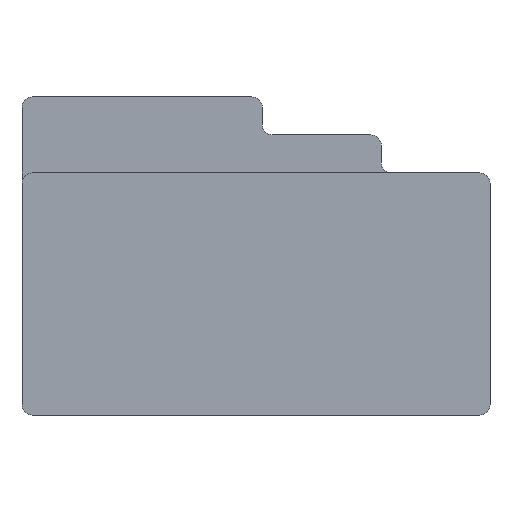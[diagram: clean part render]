
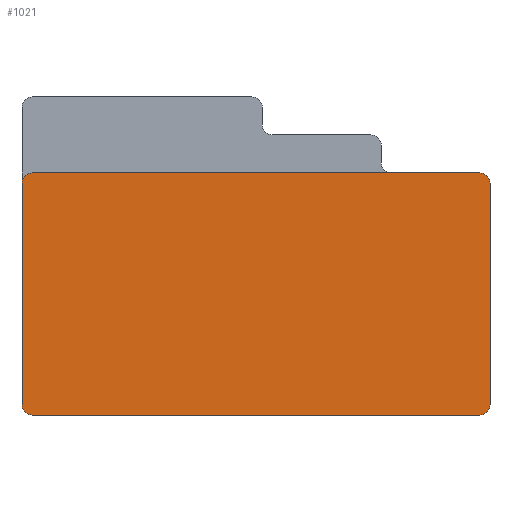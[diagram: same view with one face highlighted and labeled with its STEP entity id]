
A CAD part, front view. The second image highlights one B-rep face of the part: STEP entity #1021.
In plain terms, the highlighted planar face has unit normal (0, -1, 0).
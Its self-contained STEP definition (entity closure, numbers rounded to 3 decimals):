
#180=CARTESIAN_POINT('',(-10.9,-11.6,11.3));
#181=DIRECTION('',(0.,-1.,0.));
#182=DIRECTION('',(0.,0.,1.));
#183=AXIS2_PLACEMENT_3D('',#180,#181,#182);
#185=CARTESIAN_POINT('',(10.9,-11.6,11.3));
#186=DIRECTION('',(0.,-1.,0.));
#187=DIRECTION('',(1.,0.,0.));
#188=AXIS2_PLACEMENT_3D('',#185,#186,#187);
#190=CARTESIAN_POINT('',(10.9,-11.6,0.5));
#191=DIRECTION('',(0.,-1.,0.));
#192=DIRECTION('',(0.,0.,-1.));
#193=AXIS2_PLACEMENT_3D('',#190,#191,#192);
#195=CARTESIAN_POINT('',(-10.9,-11.6,0.5));
#196=DIRECTION('',(0.,-1.,0.));
#197=DIRECTION('',(-1.,0.,0.));
#198=AXIS2_PLACEMENT_3D('',#195,#196,#197);
#200=DIRECTION('',(0.,0.,1.));
#201=VECTOR('',#200,10.8);
#202=CARTESIAN_POINT('',(-11.4,-11.6,0.5));
#203=LINE('',#202,#201);
#288=DIRECTION('',(1.,0.,0.));
#289=VECTOR('',#288,21.8);
#290=CARTESIAN_POINT('',(-10.9,-11.6,11.8));
#291=LINE('',#290,#289);
#480=DIRECTION('',(1.,0.,0.));
#481=VECTOR('',#480,21.8);
#482=CARTESIAN_POINT('',(-10.9,-11.6,0.));
#483=LINE('',#482,#481);
#550=DIRECTION('',(0.,0.,1.));
#551=VECTOR('',#550,10.8);
#552=CARTESIAN_POINT('',(11.4,-11.6,0.5));
#553=LINE('',#552,#551);
#660=CARTESIAN_POINT('',(-10.9,-11.6,11.8));
#661=CARTESIAN_POINT('',(-11.4,-11.6,11.3));
#662=VERTEX_POINT('',#660);
#663=VERTEX_POINT('',#661);
#688=CARTESIAN_POINT('',(11.4,-11.6,11.3));
#689=VERTEX_POINT('',#688);
#690=CARTESIAN_POINT('',(10.9,-11.6,11.8));
#691=VERTEX_POINT('',#690);
#692=CARTESIAN_POINT('',(10.9,-11.6,0.));
#693=CARTESIAN_POINT('',(11.4,-11.6,0.5));
#694=VERTEX_POINT('',#692);
#695=VERTEX_POINT('',#693);
#704=CARTESIAN_POINT('',(-11.4,-11.6,0.5));
#705=VERTEX_POINT('',#704);
#706=CARTESIAN_POINT('',(-10.9,-11.6,0.));
#707=VERTEX_POINT('',#706);
#999=CARTESIAN_POINT('',(-11.4,-11.6,0.));
#1000=DIRECTION('',(0.,-1.,0.));
#1001=DIRECTION('',(1.,0.,0.));
#1002=AXIS2_PLACEMENT_3D('',#999,#1000,#1001);
#1003=PLANE('',#1002);
#1005=ORIENTED_EDGE('',*,*,#1004,.F.);
#1007=ORIENTED_EDGE('',*,*,#1006,.T.);
#1009=ORIENTED_EDGE('',*,*,#1008,.F.);
#1011=ORIENTED_EDGE('',*,*,#1010,.F.);
#1012=ORIENTED_EDGE('',*,*,#989,.F.);
#1014=ORIENTED_EDGE('',*,*,#1013,.F.);
#1016=ORIENTED_EDGE('',*,*,#1015,.F.);
#1018=ORIENTED_EDGE('',*,*,#1017,.T.);
#1019=EDGE_LOOP('',(#1005,#1007,#1009,#1011,#1012,#1014,#1016,#1018));
#1020=FACE_OUTER_BOUND('',#1019,.F.);
#1021=ADVANCED_FACE('',(#1020),#1003,.T.);
#184=CIRCLE('',#183,0.5);
#189=CIRCLE('',#188,0.5);
#194=CIRCLE('',#193,0.5);
#199=CIRCLE('',#198,0.5);
#989=EDGE_CURVE('',#694,#695,#194,.T.);
#1004=EDGE_CURVE('',#662,#663,#184,.T.);
#1006=EDGE_CURVE('',#662,#691,#291,.T.);
#1008=EDGE_CURVE('',#689,#691,#189,.T.);
#1010=EDGE_CURVE('',#695,#689,#553,.T.);
#1013=EDGE_CURVE('',#707,#694,#483,.T.);
#1015=EDGE_CURVE('',#705,#707,#199,.T.);
#1017=EDGE_CURVE('',#705,#663,#203,.T.);
